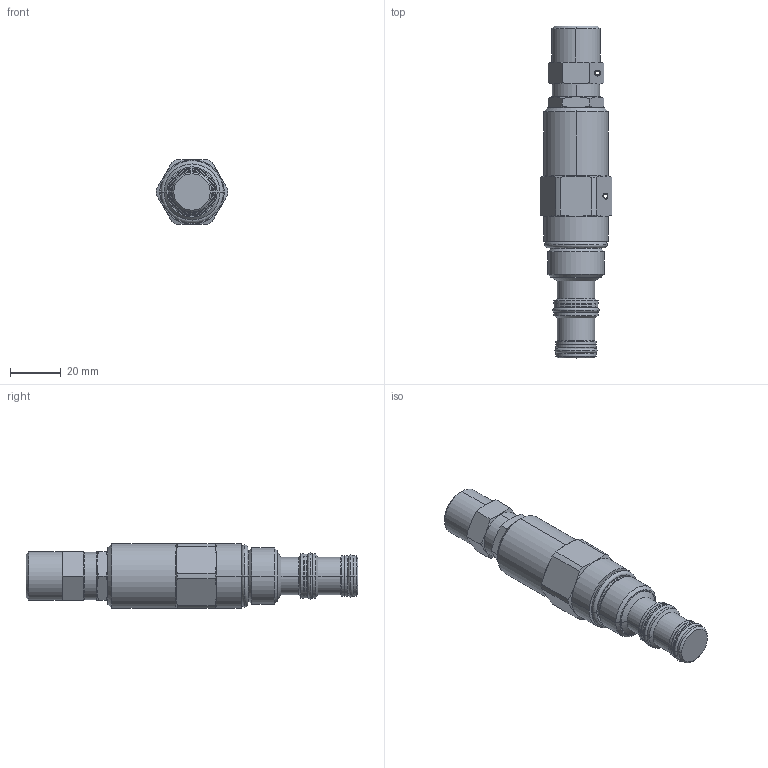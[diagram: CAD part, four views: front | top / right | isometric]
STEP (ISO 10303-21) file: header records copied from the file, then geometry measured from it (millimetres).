
FILE_DESCRIPTION((''),'2;1');
FILE_NAME('PRT0012','2009-03-24T',('jcs'),(''),'PRO/ENGINEER BY PARAMETRIC TECHNOLOGY CORPORATION, 2008510','PRO/ENGINEER BY PARAMETRIC TECHNOLOGY CORPORATION, 2008510','');
FILE_SCHEMA(('CONFIG_CONTROL_DESIGN'));
Length unit declared in the file: inch
Products named in the file (1): PRT0012
Bounding box: 28.19 x 130.88 x 25.4 mm (x, y, z)
Volume: 48189.4 mm3; surface area: 11736.5 mm2
Topology: 5 solids, 5 shells, 185 faces, 397 edges, 228 vertices
Faces by surface type: cylinder 51, cone 50, plane 34, torus 26, revolution 24
Entity records: 5896 total; most frequent: CARTESIAN_POINT 1886, DIRECTION 853, ORIENTED_EDGE 794, EDGE_CURVE 397, AXIS2_PLACEMENT_3D 368, VERTEX_POINT 228, CIRCLE 207, EDGE_LOOP 203
